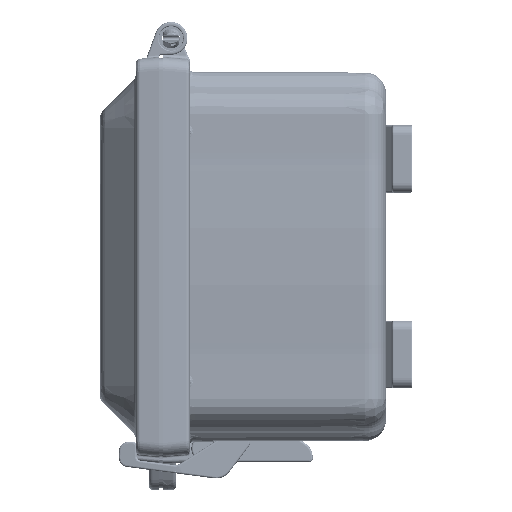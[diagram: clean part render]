
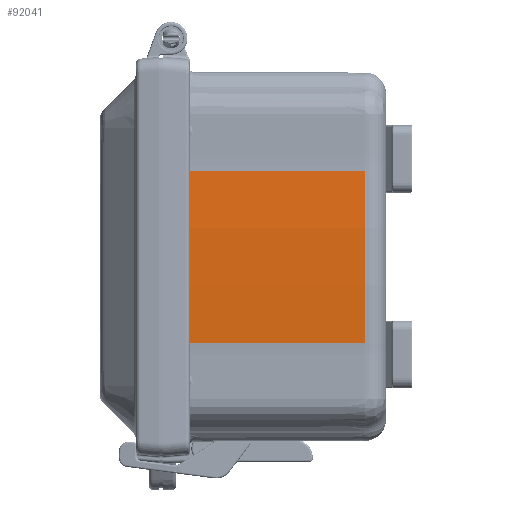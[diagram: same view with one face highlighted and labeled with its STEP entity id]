
A CAD part, left-side view. The second image highlights one B-rep face of the part: STEP entity #92041.
In plain terms, the highlighted conical face has half-angle 0.25 degrees and reference radius 622.875 mm.
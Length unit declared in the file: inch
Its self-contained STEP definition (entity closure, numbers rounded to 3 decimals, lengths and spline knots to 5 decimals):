
#49713=DIRECTION('',(-0.004,1.,0.));
#49714=VECTOR('',#49713,3.54688);
#49715=CARTESIAN_POINT('',(-4.13425,-3.7517,
-1.59409));
#49716=LINE('',#49715,#49714);
#49735=CARTESIAN_POINT('',(20.32875,-0.20472,0.));
#49736=DIRECTION('',(0.,1.,0.));
#49737=DIRECTION('',(-0.998,0.,
-0.065));
#49738=AXIS2_PLACEMENT_3D('',#49735,#49736,#49737);
#50050=DIRECTION('',(0.004,-1.,0.));
#50051=VECTOR('',#50050,3.54688);
#50052=CARTESIAN_POINT('',(-4.14969,-0.20486,
1.5951));
#50053=LINE('',#50052,#50051);
#50666=CARTESIAN_POINT('',(20.32875,-3.7517,0.));
#50667=DIRECTION('',(0.,-1.,0.));
#50668=DIRECTION('',(-0.998,0.,0.065));
#50669=AXIS2_PLACEMENT_3D('',#50666,#50667,#50668);
#71612=CARTESIAN_POINT('',(-4.13425,-3.7517,
-1.59409));
#71613=CARTESIAN_POINT('',(-4.14969,-0.20486,
-1.5951));
#71614=VERTEX_POINT('',#71612);
#71615=VERTEX_POINT('',#71613);
#71657=CARTESIAN_POINT('',(-4.13425,-3.7517,
1.59409));
#71659=VERTEX_POINT('',#71657);
#73610=CARTESIAN_POINT('',(-4.14969,-0.20472,
1.5951));
#73611=VERTEX_POINT('',#73610);
#92027=CARTESIAN_POINT('',(20.32875,-1.97821,0.));
#92028=DIRECTION('',(0.,1.,0.));
#92029=DIRECTION('',(0.,0.,1.));
#92030=AXIS2_PLACEMENT_3D('',#92027,#92028,#92029);
#92031=CONICAL_SURFACE('',#92030,24.52262,0.25);
#92033=ORIENTED_EDGE('',*,*,#92032,.T.);
#92035=ORIENTED_EDGE('',*,*,#92034,.T.);
#92037=ORIENTED_EDGE('',*,*,#92036,.T.);
#92038=ORIENTED_EDGE('',*,*,#92018,.T.);
#92039=EDGE_LOOP('',(#92033,#92035,#92037,#92038));
#92040=FACE_OUTER_BOUND('',#92039,.F.);
#49739=CIRCLE('',#49738,24.53036);
#50670=CIRCLE('',#50669,24.51488);
#92018=EDGE_CURVE('',#71614,#71615,#49716,.T.);
#92032=EDGE_CURVE('',#71615,#73611,#49739,.T.);
#92034=EDGE_CURVE('',#73611,#71659,#50053,.T.);
#92036=EDGE_CURVE('',#71659,#71614,#50670,.T.);
#92041=ADVANCED_FACE('',(#92040),#92031,.T.);
